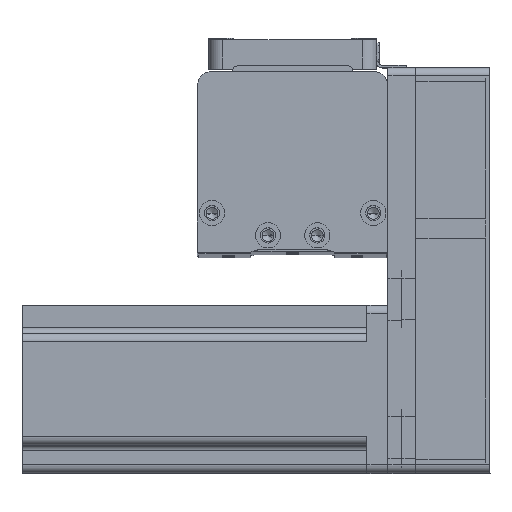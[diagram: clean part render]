
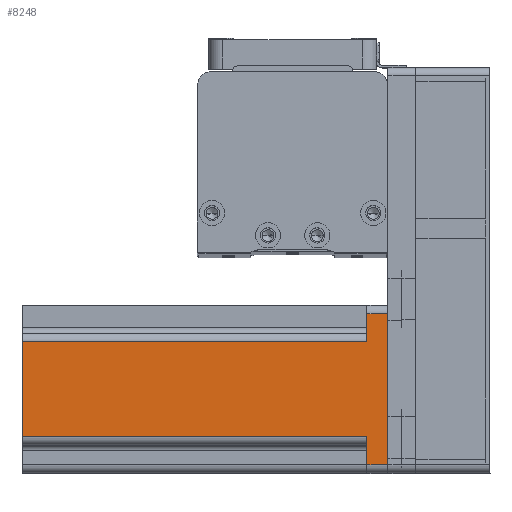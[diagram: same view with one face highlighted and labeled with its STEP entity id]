
A CAD part, top view. The second image highlights one B-rep face of the part: STEP entity #8248.
In plain terms, the highlighted planar face has unit normal (0, 0, 1) as drawn and (0, 1, 0) by its records, which use the part's own axes.
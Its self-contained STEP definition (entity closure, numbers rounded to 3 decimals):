
#590 = VERTEX_POINT ( 'NONE', #29718 ) ;
#2299 = ORIENTED_EDGE ( 'NONE', *, *, #12262, .T. ) ;
#2686 = EDGE_CURVE ( 'NONE', #13104, #16614, #15336, .T. ) ;
#2794 = CARTESIAN_POINT ( 'NONE',  ( -17., 30., 7.5 ) ) ;
#2922 = CARTESIAN_POINT ( 'NONE',  ( 27., 30., 130.7 ) ) ;
#4545 = VERTEX_POINT ( 'NONE', #22731 ) ;
#4610 = PLANE ( 'NONE',  #26555 ) ;
#7055 = VECTOR ( 'NONE', #28195, 1000. ) ;
#7086 = DIRECTION ( 'NONE',  ( -1., 0., 0. ) ) ;
#7749 = LINE ( 'NONE', #22960, #12875 ) ;
#8248 = ADVANCED_FACE ( 'NONE', ( #23346 ), #4610, .F. ) ;
#10294 = VERTEX_POINT ( 'NONE', #10356 ) ;
#10356 = CARTESIAN_POINT ( 'NONE',  ( 17., 30., 130.7 ) ) ;
#10917 = EDGE_CURVE ( 'NONE', #4545, #34655, #34876, .T. ) ;
#11417 = LINE ( 'NONE', #37570, #21073 ) ;
#12052 = ORIENTED_EDGE ( 'NONE', *, *, #21473, .F. ) ;
#12120 = DIRECTION ( 'NONE',  ( 0., -1., 0. ) ) ;
#12262 = EDGE_CURVE ( 'NONE', #16614, #39508, #11417, .T. ) ;
#12828 = DIRECTION ( 'NONE',  ( 0., 0., 1. ) ) ;
#12875 = VECTOR ( 'NONE', #15805, 1000. ) ;
#13104 = VERTEX_POINT ( 'NONE', #24688 ) ;
#15336 = LINE ( 'NONE', #30849, #24602 ) ;
#15805 = DIRECTION ( 'NONE',  ( -1., 0., 0. ) ) ;
#16614 = VERTEX_POINT ( 'NONE', #45794 ) ;
#18164 = CARTESIAN_POINT ( 'NONE',  ( 30., 30., 130.7 ) ) ;
#18972 = VECTOR ( 'NONE', #7086, 1000. ) ;
#19256 = CARTESIAN_POINT ( 'NONE',  ( 27., 30., 0. ) ) ;
#19475 = EDGE_CURVE ( 'NONE', #39508, #590, #25548, .T. ) ;
#19733 = CARTESIAN_POINT ( 'NONE',  ( 17., 30., 130.7 ) ) ;
#20541 = ORIENTED_EDGE ( 'NONE', *, *, #39314, .T. ) ;
#21073 = VECTOR ( 'NONE', #33907, 1000. ) ;
#21463 = ORIENTED_EDGE ( 'NONE', *, *, #10917, .T. ) ;
#21473 = EDGE_CURVE ( 'NONE', #4545, #47036, #29710, .T. ) ;
#21503 = DIRECTION ( 'NONE',  ( -1., 0., 0. ) ) ;
#21528 = VECTOR ( 'NONE', #37771, 1000. ) ;
#22731 = CARTESIAN_POINT ( 'NONE',  ( 27., 30., 7.5 ) ) ;
#22960 = CARTESIAN_POINT ( 'NONE',  ( 30., 30., 0. ) ) ;
#23346 = FACE_OUTER_BOUND ( 'NONE', #25370, .T. ) ;
#24602 = VECTOR ( 'NONE', #34008, 1000. ) ;
#24688 = CARTESIAN_POINT ( 'NONE',  ( -27., 30., 0. ) ) ;
#25215 = CARTESIAN_POINT ( 'NONE',  ( 20., 30., 7.5 ) ) ;
#25370 = EDGE_LOOP ( 'NONE', ( #2299, #25994, #27760, #20541, #12052, #21463, #34148, #30867 ) ) ;
#25548 = LINE ( 'NONE', #45287, #34029 ) ;
#25994 = ORIENTED_EDGE ( 'NONE', *, *, #19475, .T. ) ;
#26555 = AXIS2_PLACEMENT_3D ( 'NONE', #33818, #12120, #37456 ) ;
#27760 = ORIENTED_EDGE ( 'NONE', *, *, #36910, .F. ) ;
#28195 = DIRECTION ( 'NONE',  ( 0., 0., -1. ) ) ;
#29710 = LINE ( 'NONE', #25215, #18972 ) ;
#29718 = CARTESIAN_POINT ( 'NONE',  ( -17., 30., 130.7 ) ) ;
#30849 = CARTESIAN_POINT ( 'NONE',  ( -27., 30., 130.7 ) ) ;
#30867 = ORIENTED_EDGE ( 'NONE', *, *, #2686, .T. ) ;
#33818 = CARTESIAN_POINT ( 'NONE',  ( 30., 30., 130.7 ) ) ;
#33907 = DIRECTION ( 'NONE',  ( 1., 0., 0. ) ) ;
#34008 = DIRECTION ( 'NONE',  ( 0., 0., 1. ) ) ;
#34029 = VECTOR ( 'NONE', #12828, 1000. ) ;
#34148 = ORIENTED_EDGE ( 'NONE', *, *, #36610, .T. ) ;
#34655 = VERTEX_POINT ( 'NONE', #19256 ) ;
#34876 = LINE ( 'NONE', #2922, #7055 ) ;
#36610 = EDGE_CURVE ( 'NONE', #34655, #13104, #7749, .T. ) ;
#36910 = EDGE_CURVE ( 'NONE', #10294, #590, #37206, .T. ) ;
#37054 = CARTESIAN_POINT ( 'NONE',  ( 17., 30., 7.5 ) ) ;
#37206 = LINE ( 'NONE', #18164, #45683 ) ;
#37456 = DIRECTION ( 'NONE',  ( 1., 0., 0. ) ) ;
#37570 = CARTESIAN_POINT ( 'NONE',  ( -20., 30., 7.5 ) ) ;
#37771 = DIRECTION ( 'NONE',  ( 0., 0., -1. ) ) ;
#39314 = EDGE_CURVE ( 'NONE', #10294, #47036, #39670, .T. ) ;
#39508 = VERTEX_POINT ( 'NONE', #2794 ) ;
#39670 = LINE ( 'NONE', #19733, #21528 ) ;
#45287 = CARTESIAN_POINT ( 'NONE',  ( -17., 30., 130.7 ) ) ;
#45683 = VECTOR ( 'NONE', #21503, 1000. ) ;
#45794 = CARTESIAN_POINT ( 'NONE',  ( -27., 30., 7.5 ) ) ;
#47036 = VERTEX_POINT ( 'NONE', #37054 ) ;
